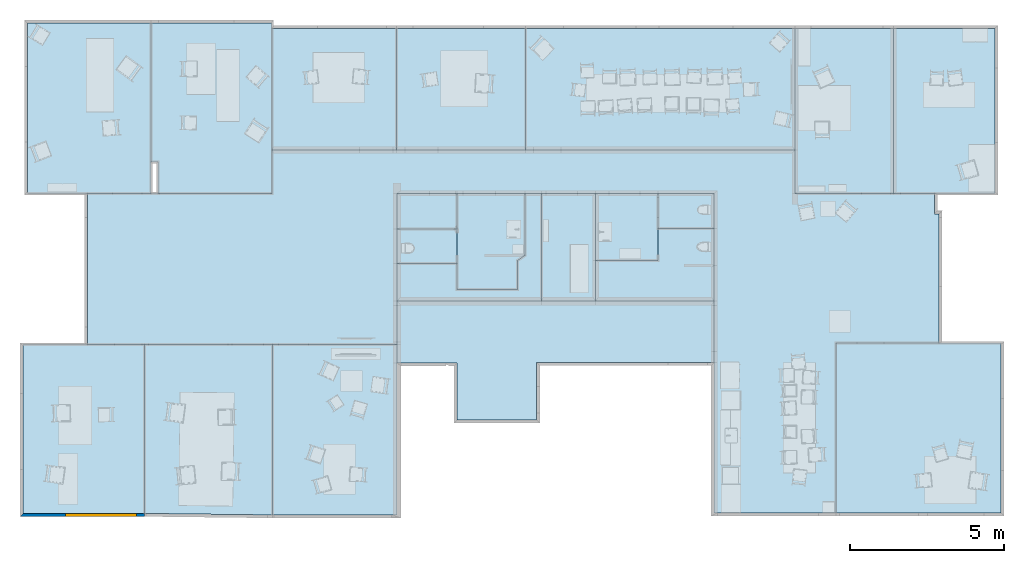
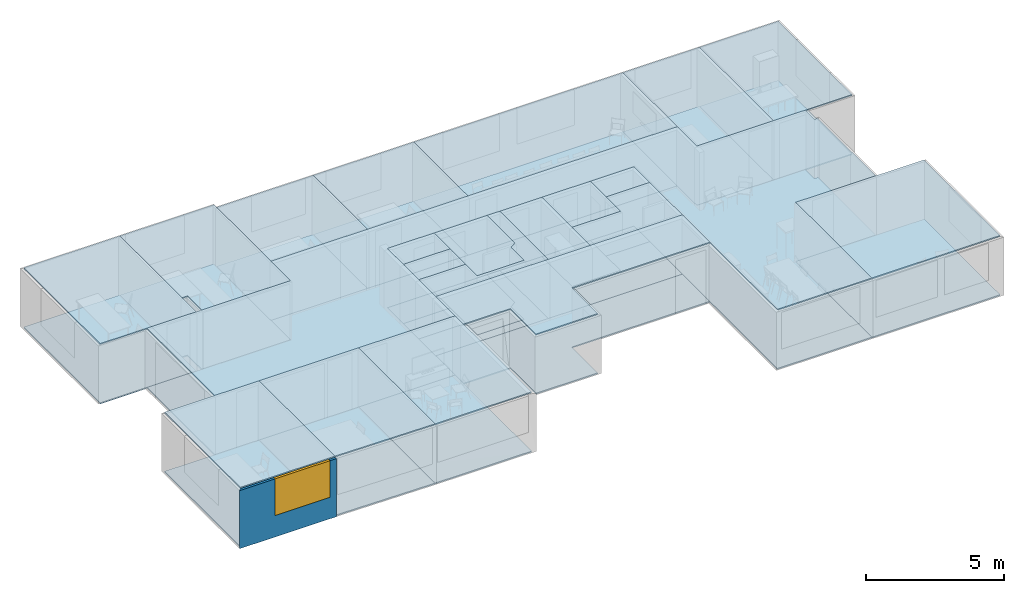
# One storey, part 1 of 26: 42 slabs, 1 wall, 1 window, 1 opening.
"""IFC2X3 building model written with IfcOpenShell, lengths in metres."""

from ifc_helpers import new_model, si_unit, direction, frame, origin_with_axes, place, context, subcontext, project, spatial, polyline, outline, extrude, type_object, element, fill, save


model = new_model("IFC2X3")

# Units and contexts
model_context = context("Model", 3, precision=1e-05, world=origin_with_axes(), true_north=direction((0.996, -0.093, 0.0)))
body_context = subcontext(model_context, "Body", "Model", "MODEL_VIEW")
ifc_project = project(units=[si_unit("AREAUNIT", "SQUARE_METRE"), si_unit("LENGTHUNIT", "METRE")], contexts=[model_context])

# Site, building, storey
site_placement = place(None, origin_with_axes())
site = spatial("IfcSite", under=ifc_project, at=site_placement, Name="Site", CompositionType="ELEMENT")
building_placement = place(site_placement, origin_with_axes())
building = spatial("IfcBuilding", under=site, at=building_placement, Name="Building", CompositionType="ELEMENT")
storey_placement = place(building_placement, frame((0.0, 0.0, 0.0500001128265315), z_axis=(0.0, 0.0, 1.0), x_axis=(1.0, 0.0, 0.0)))
storey = spatial("IfcBuildingStorey", under=building, at=storey_placement, Name="Story 0", CompositionType="ELEMENT", Elevation=0.0499999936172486)

# Slabs
slab_type_1 = type_object("IfcSlabType", PredefinedType="FLOOR")
slab_1_placement = place(storey_placement, frame((6.01094218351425, 11.0851799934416, 0.0), z_axis=(0.0, 0.0, 1.0), x_axis=(1.0, 0.0, 0.0)))
element("IfcSlab", 1, at=slab_1_placement, inside=storey, type_object=slab_type_1, Name="Floor", ObjectType="Floor:Floor-Grnd-Susp_65Scr-80Ins-100Blk-75PC", PredefinedType="FLOOR", context=body_context, shape_type="SweptSolid", body=[
    extrude(outline(polyline([(0.0, 0.0), (1.35120934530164e-06, -3.94189997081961), (4.04160132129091, -3.94189858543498), (4.04159997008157, 1.38538463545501e-06), (3.97889997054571, 1.36389225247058e-06), (0.0, 0.0)])), origin_with_axes(), (0.0, 0.0, -1.0), 0.05),
])
slab_type_2 = type_object("IfcSlabType", PredefinedType="FLOOR")
slab_2_placement = place(storey_placement, frame((16.5367737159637, 2.22077950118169, 0.0), z_axis=(0.0, 0.0, 1.0), x_axis=(1.0, 0.0, 0.0)))
element("IfcSlab", 2, at=slab_2_placement, inside=storey, type_object=slab_type_2, Name="Floor", ObjectType="Floor:Floor-Grnd-Susp_65Scr-80Ins-100Blk-75PC", PredefinedType="FLOOR", context=body_context, shape_type="SweptSolid", body=[
    extrude(outline(polyline([(0.0, 0.0), (-6.91700037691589e-07, 1.32092116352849), (2.02841165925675, 1.32092205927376), (2.02841071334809, 2.36955394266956), (3.8562978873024, 2.3695550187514), (3.85629842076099, 1.15562226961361), (3.85629870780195, 6.26529670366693e-07), (0.0, 0.0)])), origin_with_axes(), (0.0, 0.0, -1.0), 0.05),
])
slab_type_3 = type_object("IfcSlabType", PredefinedType="FLOOR")
slab_3_placement = place(storey_placement, frame((1.85908719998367, -4.68587847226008, 0.0), z_axis=(0.0, 0.0, 1.0), x_axis=(1.0, 0.0, 0.0)))
element("IfcSlab", 3, at=slab_3_placement, inside=storey, type_object=slab_type_3, Name="Floor", ObjectType="Floor:Floor-Grnd-Susp_65Scr-80Ins-100Blk-75PC", PredefinedType="FLOOR", context=body_context, shape_type="SweptSolid", body=[
    extrude(outline(polyline([(0.0, 0.0), (-5.78252630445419e-07, 5.50147174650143), (4.16546627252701, 5.5014719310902), (4.16546702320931, -0.0495669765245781), (0.0, 0.0)])), origin_with_axes(), (0.0, 0.0, -1.0), 0.05),
])
slab_type_4 = type_object("IfcSlabType", PredefinedType="FLOOR")
slab_4_placement = place(storey_placement, frame((10.0691793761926, 5.72888431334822, 0.0), z_axis=(0.0, 0.0, 1.0), x_axis=(1.0, 0.0, 0.0)))
element("IfcSlab", 4, at=slab_4_placement, inside=storey, type_object=slab_type_4, Name="Floor", ObjectType="Floor:Floor-Grnd-Susp_65Scr-80Ins-100Blk-75PC", PredefinedType="FLOOR", context=body_context, shape_type="SweptSolid", body=[
    extrude(outline(polyline([(0.0, 0.0), (1.16174970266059e-06, -1.15640352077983), (1.42666026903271e-06, -2.27992760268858), (1.7162467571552e-06, -3.50810586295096), (2.04756864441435e-06, -4.91328998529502), (-4.04462590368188, -4.91329085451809), (-8.2100927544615, -4.91329174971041), (-10.0644669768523, -4.91329214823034), (-10.0644674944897, -1.49524647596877e-06), (-8.00516032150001, -9.19671684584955e-07), (-7.77246198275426, -8.68281123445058e-07), (-4.05828463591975, -4.80188857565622e-08), (-4.05828480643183, 1.4144241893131), (-0.0166216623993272, 1.41442574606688), (4.18886750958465, 1.41442736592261), (12.9510258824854, 1.41443074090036), (12.9510268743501, 3.87127766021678e-06), (16.1598814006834, 4.32439489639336e-06), (17.4891174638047, 4.51209419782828e-06), (17.4891194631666, -0.668520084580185), (17.6346837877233, -0.668521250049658), (17.6346847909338, -4.87122265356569), (14.2777426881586, -4.87122354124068), (14.2777442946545, -10.3953970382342), (10.3238941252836, -10.3953982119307), (10.3238935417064, -5.49747577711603), (10.3238930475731, -3.50810418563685), (10.3238927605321, -2.35248254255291), (10.3238924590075, -1.13854979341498), (10.3238921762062, 2.88185688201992e-06), (8.49600574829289, 2.33355119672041e-06), (6.46759250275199, 1.77641808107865e-06), (4.70630800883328, 1.29265575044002e-06), (4.16981985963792, 1.14530149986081e-06), (1.95834369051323, 5.3788749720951e-07), (0.0, 0.0)])), origin_with_axes(), (0.0, 0.0, -1.0), 0.05),
])
slab_type_5 = type_object("IfcSlabType", PredefinedType="FLOOR")
slab_5_placement = place(storey_placement, frame((14.7754880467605, 2.22077921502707, 0.0), z_axis=(0.0, 0.0, 1.0), x_axis=(1.0, 0.0, 0.0)))
element("IfcSlab", 5, at=slab_5_placement, inside=storey, type_object=slab_type_5, Name="Floor", ObjectType="Floor:Floor-Grnd-Susp_65Scr-80Ins-100Blk-75PC", PredefinedType="FLOOR", context=body_context, shape_type="SweptSolid", body=[
    extrude(outline(polyline([(0.0, 0.0), (-6.61734810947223e-07, 3.50810715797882), (1.76128383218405, 3.50810687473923), (1.76128497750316, 1.32092144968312), (1.76128566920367, -5.95129599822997e-07), (0.0, 0.0)])), origin_with_axes(), (0.0, 0.0, -1.0), 0.05),
])
slab_type_6 = type_object("IfcSlabType", PredefinedType="FLOOR")
slab_6_placement = place(storey_placement, frame((10.0691808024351, 3.44895671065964, 0.0), z_axis=(0.0, 0.0, 1.0), x_axis=(1.0, 0.0, 0.0)))
element("IfcSlab", 6, at=slab_6_placement, inside=storey, type_object=slab_type_6, Name="Floor", ObjectType="Floor:Floor-Grnd-Susp_65Scr-80Ins-100Blk-75PC", PredefinedType="FLOOR", context=body_context, shape_type="SweptSolid", body=[
    extrude(outline(polyline([(0.0, 0.0), (-2.64492820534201e-07, 1.12352408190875), (1.95834300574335, 1.12352298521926), (1.95834218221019, 0.996839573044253), (1.9583421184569, 5.66208797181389e-07), (0.0, 0.0)])), origin_with_axes(), (0.0, 0.0, -1.0), 0.05),
])
slab_type_7 = type_object("IfcSlabType", PredefinedType="FLOOR")
slab_7_placement = place(storey_placement, frame((18.5651854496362, 4.59033346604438, 0.0), z_axis=(0.0, 0.0, 1.0), x_axis=(1.0, 0.0, 0.0)))
element("IfcSlab", 7, at=slab_7_placement, inside=storey, type_object=slab_type_7, Name="Floor", ObjectType="Floor:Floor-Grnd-Susp_65Scr-80Ins-100Blk-75PC", PredefinedType="FLOOR", context=body_context, shape_type="SweptSolid", body=[
    extrude(outline(polyline([(0.0, 0.0), (-6.44977493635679e-07, -1.04863051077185), (-2.02841097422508, -1.04863280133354), (-2.02841357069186, 1.13855297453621), (-3.25150779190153e-07, 1.13855318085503), (0.0, 0.0)])), origin_with_axes(), (0.0, 0.0, -1.0), 0.05),
])
slab_type_8 = type_object("IfcSlabType", PredefinedType="FLOOR")
slab_8_placement = place(storey_placement, frame((24.3469220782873, -4.66651286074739, 0.0), z_axis=(0.0, 0.0, 1.0), x_axis=(1.0, 0.0, 0.0)))
element("IfcSlab", 8, at=slab_8_placement, inside=storey, type_object=slab_type_8, Name="Floor", ObjectType="Floor:Floor-Grnd-Susp_65Scr-80Ins-100Blk-75PC", PredefinedType="FLOOR", context=body_context, shape_type="SweptSolid", body=[
    extrude(outline(polyline([(0.0, 0.0), (1.32077918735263e-06, 5.52417339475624), (3.3569420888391, 5.52417447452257), (5.37412561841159, 5.52417498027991), (5.37412732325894, 1.73379316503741e-06), (0.0, 0.0)])), origin_with_axes(), (0.0, 0.0, -1.0), 0.05),
])
slab_type_9 = type_object("IfcSlabType", PredefinedType="FLOOR")
slab_9_placement = place(storey_placement, frame((12.0275230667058, 5.72888485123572, 0.0), z_axis=(0.0, 0.0, 1.0), x_axis=(1.0, 0.0, 0.0)))
element("IfcSlab", 9, at=slab_9_placement, inside=storey, type_object=slab_type_9, Name="Floor", ObjectType="Floor:Floor-Grnd-Susp_65Scr-80Ins-100Blk-75PC", PredefinedType="FLOOR", context=body_context, shape_type="SweptSolid", body=[
    extrude(outline(polyline([(0.0, 0.0), (-7.39584145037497e-08, -1.15640515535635), (-1.95834145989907, -1.15640405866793), (-1.95834280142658, -5.37887253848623e-07), (0.0, 0.0)])), origin_with_axes(), (0.0, 0.0, -1.0), 0.05),
])
slab_type_10 = type_object("IfcSlabType", PredefinedType="FLOOR")
slab_10_placement = place(storey_placement, frame((6.01089456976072, 7.14330850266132, 0.0), z_axis=(0.0, 0.0, 1.0), x_axis=(1.0, 0.0, 0.0)))
element("IfcSlab", 10, at=slab_10_placement, inside=storey, type_object=slab_type_10, Name="Floor", ObjectType="Floor:Floor-Grnd-Susp_65Scr-80Ins-100Blk-75PC", PredefinedType="FLOOR", context=body_context, shape_type="SweptSolid", body=[
    extrude(outline(polyline([(0.0, 0.0), (1.91276572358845e-07, -1.41442484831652), (-3.71417717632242, -1.41442505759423), (-3.71417728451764, -0.38746187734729), (-3.94687553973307, -0.387461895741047), (-3.94687604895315, 4.12646442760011), (-7.28675563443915e-07, 4.12646619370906), (-5.33075076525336e-07, 3.94190793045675), (0.0, 0.0)])), origin_with_axes(), (0.0, 0.0, -1.0), 0.05),
])
slab_type_11 = type_object("IfcSlabType", PredefinedType="FLOOR")
slab_11_placement = place(storey_placement, frame((12.0275230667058, 5.72888523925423, 0.0), z_axis=(0.0, 0.0, 1.0), x_axis=(1.0, 0.0, 0.0)))
element("IfcSlab", 11, at=slab_11_placement, inside=storey, type_object=slab_type_11, Name="Floor", ObjectType="Floor:Floor-Grnd-Susp_65Scr-80Ins-100Blk-75PC", PredefinedType="FLOOR", context=body_context, shape_type="SweptSolid", body=[
    extrude(outline(polyline([(0.0, 0.0), (2.21147616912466, 2.19395485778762e-07), (2.21147654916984, -2.01476334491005), (1.95910113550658, -2.18755352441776), (1.95910019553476, -3.12124838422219), (3.97650538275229e-07, -3.12124927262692), (3.39134585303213e-07, -2.27992764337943), (-8.20605414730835e-08, -1.28308895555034), (-7.39584429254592e-08, -1.15640554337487), (0.0, 0.0)])), origin_with_axes(), (0.0, 0.0, -1.0), 0.05),
])
slab_type_12 = type_object("IfcSlabType", PredefinedType="FLOOR")
slab_12_placement = place(storey_placement, frame((29.5232931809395, 11.0953677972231, 0.0), z_axis=(0.0, 0.0, 1.0), x_axis=(1.0, 0.0, 0.0)))
element("IfcSlab", 12, at=slab_12_placement, inside=storey, type_object=slab_type_12, Name="Floor", ObjectType="Floor:Floor-Grnd-Susp_65Scr-80Ins-100Blk-75PC", PredefinedType="FLOOR", context=body_context, shape_type="SweptSolid", body=[
    extrude(outline(polyline([(0.0, 0.0), (2.82823489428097e-06, -5.36647890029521), (-1.96499634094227, -5.36647897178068), (-3.29423240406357, -5.36647915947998), (-3.2942329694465, 2.0218647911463e-07), (0.0, 0.0)])), origin_with_axes(), (0.0, 0.0, -1.0), 0.05),
])
slab_type_13 = type_object("IfcSlabType", PredefinedType="FLOOR")
slab_13_placement = place(storey_placement, frame((-2.09511550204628, 0.815591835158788, 0.0), z_axis=(0.0, 0.0, 1.0), x_axis=(1.0, 0.0, 0.0)))
element("IfcSlab", 13, at=slab_13_placement, inside=storey, type_object=slab_type_13, Name="Floor", ObjectType="Floor:Floor-Grnd-Susp_65Scr-80Ins-100Blk-75PC", PredefinedType="FLOOR", context=body_context, shape_type="SweptSolid", body=[
    extrude(outline(polyline([(0.0, 0.0), (2.09982790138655, 3.2995908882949e-07), (3.95420212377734, 7.28479019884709e-07), (3.95420232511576, -5.50147008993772), (1.11260533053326e-06, -5.5014707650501), (0.0, 0.0)])), origin_with_axes(), (0.0, 0.0, -1.0), 0.05),
])
slab_type_14 = type_object("IfcSlabType", PredefinedType="FLOOR")
slab_14_placement = place(storey_placement, frame((23.0202060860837, 7.14331505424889, 0.0), z_axis=(0.0, 0.0, 1.0), x_axis=(1.0, 0.0, 0.0)))
element("IfcSlab", 14, at=slab_14_placement, inside=storey, type_object=slab_type_14, Name="Floor", ObjectType="Floor:Floor-Grnd-Susp_65Scr-80Ins-100Blk-75PC", PredefinedType="FLOOR", context=body_context, shape_type="SweptSolid", body=[
    extrude(outline(polyline([(0.0, 0.0), (-4.59514758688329e-07, 3.95205102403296), (3.20885412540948, 3.95205147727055), (3.20885469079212, -1.41442597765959), (7.28245669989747e-07, -1.41442686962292), (0.0, 0.0)])), origin_with_axes(), (0.0, 0.0, -1.0), 0.05),
])
slab_type_15 = type_object("IfcSlabType", PredefinedType="FLOOR")
slab_15_placement = place(storey_placement, frame((14.7754880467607, 2.2207781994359, 0.0), z_axis=(0.0, 0.0, 1.0), x_axis=(1.0, 0.0, 0.0)))
element("IfcSlab", 15, at=slab_15_placement, inside=storey, type_object=slab_type_15, Name="Floor", ObjectType="Floor:Floor-Grnd-Susp_65Scr-80Ins-100Blk-75PC", PredefinedType="FLOOR", context=body_context, shape_type="SweptSolid", body=[
    extrude(outline(polyline([(0.0, 0.0), (-4.70630849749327, 2.50961106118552e-07), (-4.70630724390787, 1.22817851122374), (-2.74796490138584, 1.22817894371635), (-2.74796454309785, 0.386858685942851), (-0.78886479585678, 0.386858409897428), (-0.788863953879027, 1.32055354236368), (-0.536487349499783, 1.4933437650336), (-0.536488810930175, 3.50810705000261), (-6.61734858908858e-07, 3.50810740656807), (0.0, 0.0)])), origin_with_axes(), (0.0, 0.0, -1.0), 0.05),
])
slab_type_16 = type_object("IfcSlabType", PredefinedType="FLOOR")
slab_16_placement = place(storey_placement, frame((2.06401895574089, 6.75584660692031, 0.0), z_axis=(0.0, 0.0, 1.0), x_axis=(1.0, 0.0, 0.0)))
element("IfcSlab", 16, at=slab_16_placement, inside=storey, type_object=slab_type_16, Name="Floor", ObjectType="Floor:Floor-Grnd-Susp_65Scr-80Ins-100Blk-75PC", PredefinedType="FLOOR", context=body_context, shape_type="SweptSolid", body=[
    extrude(outline(polyline([(0.0, 0.0), (9.89518080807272e-08, -1.02696473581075), (-2.05930707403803, -1.02696366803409), (-4.0181853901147, -1.02696410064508), (-4.01818635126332, 4.51392607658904), (-6.16582976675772e-07, 4.51392713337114), (0.0, 0.0)])), origin_with_axes(), (0.0, 0.0, -1.0), 0.05),
])
slab_type_17 = type_object("IfcSlabType", PredefinedType="FLOOR")
slab_17_placement = place(storey_placement, frame((14.2580468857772, 7.14331167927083, 0.0), z_axis=(0.0, 0.0, 1.0), x_axis=(1.0, 0.0, 0.0)))
element("IfcSlab", 17, at=slab_17_placement, inside=storey, type_object=slab_type_17, Name="Floor", ObjectType="Floor:Floor-Grnd-Susp_65Scr-80Ins-100Blk-75PC", PredefinedType="FLOOR", context=body_context, shape_type="SweptSolid", body=[
    extrude(outline(polyline([(0.0, 0.0), (-8.47147497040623e-07, 3.94190691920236), (8.76215812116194, 3.95205543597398), (8.76215920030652, 3.37497806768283e-06), (0.0, 0.0)])), origin_with_axes(), (0.0, 0.0, -1.0), 0.05),
])
slab_type_18 = type_object("IfcSlabType", PredefinedType="FLOOR")
slab_18_placement = place(storey_placement, frame((18.5651851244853, 5.72888719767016, 0.0), z_axis=(0.0, 0.0, 1.0), x_axis=(1.0, 0.0, 0.0)))
element("IfcSlab", 18, at=slab_18_placement, inside=storey, type_object=slab_type_18, Name="Floor", ObjectType="Floor:Floor-Grnd-Susp_65Scr-80Ins-100Blk-75PC", PredefinedType="FLOOR", context=body_context, shape_type="SweptSolid", body=[
    extrude(outline(polyline([(0.0, 0.0), (1.82788549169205, -4.87154796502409e-08), (1.82788671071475, -1.13855267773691), (-2.73065879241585e-07, -1.13855384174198), (0.0, 0.0)])), origin_with_axes(), (0.0, 0.0, -1.0), 0.05),
])
slab_type_19 = type_object("IfcSlabType", PredefinedType="FLOOR")
slab_19_placement = place(storey_placement, frame((10.0525577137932, 7.1433100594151, 0.0), z_axis=(0.0, 0.0, 1.0), x_axis=(1.0, 0.0, 0.0)))
element("IfcSlab", 19, at=slab_19_placement, inside=storey, type_object=slab_type_19, Name="Floor", ObjectType="Floor:Floor-Grnd-Susp_65Scr-80Ins-100Blk-75PC", PredefinedType="FLOOR", context=body_context, shape_type="SweptSolid", body=[
    extrude(outline(polyline([(0.0, 0.0), (-8.47147642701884e-07, 3.94190761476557), (4.20548840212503, 3.94190913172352), (4.20548917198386, 2.15053824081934e-06), (0.0, 0.0)])), origin_with_axes(), (0.0, 0.0, -1.0), 0.05),
])
slab_type_20 = type_object("IfcSlabType", PredefinedType="FLOOR")
slab_20_placement = place(storey_placement, frame((12.0283743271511, 0.210006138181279, 0.0), z_axis=(0.0, 0.0, 1.0), x_axis=(1.0, 0.0, 0.0)))
element("IfcSlab", 20, at=slab_20_placement, inside=storey, type_object=slab_type_20, Name="Floor", ObjectType="Floor:Floor-Grnd-Susp_65Scr-80Ins-100Blk-75PC", PredefinedType="FLOOR", context=body_context, shape_type="SweptSolid", body=[
    extrude(outline(polyline([(0.0, 0.0), (-1.95919339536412, -3.10732689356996e-07), (-1.95919290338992, 0.605588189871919), (-1.95919323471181, 2.01077231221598), (2.74711371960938, 2.01077307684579), (4.50839938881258, 2.01077336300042), (8.36469680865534, 2.01077398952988), (8.36469859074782, 0.0214023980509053), (2.5897894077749, 0.0214012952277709), (2.58978940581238, -1.85760206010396), (5.34894102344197e-08, -1.85760300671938), (0.0, 0.0)])), origin_with_axes(), (0.0, 0.0, -1.0), 0.05),
])
slab_type_21 = type_object("IfcSlabType", PredefinedType="FLOOR")
slab_21_placement = place(storey_placement, frame((6.0245547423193, -4.73544571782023, 0.0), z_axis=(0.0, 0.0, 1.0), x_axis=(1.0, 0.0, 0.0)))
element("IfcSlab", 21, at=slab_21_placement, inside=storey, type_object=slab_type_21, Name="Floor", ObjectType="Floor:Floor-Grnd-Susp_65Scr-80Ins-100Blk-75PC", PredefinedType="FLOOR", context=body_context, shape_type="SweptSolid", body=[
    extrude(outline(polyline([(0.0, 0.0), (-1.26980866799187e-06, 5.55103949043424), (4.04462651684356, 5.55104004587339), (4.04462682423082, 4.94545154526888), (4.04462799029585, 8.39267172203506e-07), (0.0, 0.0)])), origin_with_axes(), (0.0, 0.0, -1.0), 0.05),
])
slab_type_22 = type_object("IfcSlabType", PredefinedType="ROOF")
slab_22_placement = place(storey_placement, frame((6.01094218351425, 11.0851799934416, 2.5729394), z_axis=(0.0, 0.0, 1.0), x_axis=(1.0, 0.0, 0.0)))
element("IfcSlab", 22, at=slab_22_placement, inside=storey, type_object=slab_type_22, Name="Ceiling", PredefinedType="ROOF", context=body_context, shape_type="SweptSolid", body=[
    extrude(outline(polyline([(0.0, 0.0), (1.35120934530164e-06, -3.94189997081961), (4.04160132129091, -3.94189858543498), (4.04159997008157, 1.38538463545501e-06), (3.97889997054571, 1.36389225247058e-06), (0.0, 0.0)])), origin_with_axes(), (0.0, 0.0, 1.0), 0.05),
])
slab_type_23 = type_object("IfcSlabType", PredefinedType="ROOF")
slab_23_placement = place(storey_placement, frame((16.5367737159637, 2.22077950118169, 2.57293928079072), z_axis=(0.0, 0.0, 1.0), x_axis=(1.0, 0.0, 0.0)))
element("IfcSlab", 23, at=slab_23_placement, inside=storey, type_object=slab_type_23, Name="Ceiling", PredefinedType="ROOF", context=body_context, shape_type="SweptSolid", body=[
    extrude(outline(polyline([(0.0, 0.0), (-6.91700037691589e-07, 1.32092116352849), (2.02841165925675, 1.32092205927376), (2.02841071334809, 2.36955394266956), (3.8562978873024, 2.3695550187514), (3.85629842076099, 1.15562226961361), (3.85629870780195, 6.26529670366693e-07), (0.0, 0.0)])), origin_with_axes(), (0.0, 0.0, 1.0), 0.05),
])
slab_type_24 = type_object("IfcSlabType", PredefinedType="ROOF")
slab_24_placement = place(storey_placement, frame((1.85908719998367, -4.68587847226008, 2.57293928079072), z_axis=(0.0, 0.0, 1.0), x_axis=(1.0, 0.0, 0.0)))
element("IfcSlab", 24, at=slab_24_placement, inside=storey, type_object=slab_type_24, Name="Ceiling", PredefinedType="ROOF", context=body_context, shape_type="SweptSolid", body=[
    extrude(outline(polyline([(0.0, 0.0), (-5.78252630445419e-07, 5.50147174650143), (4.16546627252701, 5.5014719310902), (4.16546702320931, -0.0495669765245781), (0.0, 0.0)])), origin_with_axes(), (0.0, 0.0, 1.0), 0.05),
])
slab_type_25 = type_object("IfcSlabType", PredefinedType="ROOF")
slab_25_placement = place(storey_placement, frame((10.0691793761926, 5.72888431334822, 2.57293928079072), z_axis=(0.0, 0.0, 1.0), x_axis=(1.0, 0.0, 0.0)))
element("IfcSlab", 25, at=slab_25_placement, inside=storey, type_object=slab_type_25, Name="Ceiling", PredefinedType="ROOF", context=body_context, shape_type="SweptSolid", body=[
    extrude(outline(polyline([(0.0, 0.0), (1.16174970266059e-06, -1.15640352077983), (1.42666026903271e-06, -2.27992760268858), (1.7162467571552e-06, -3.50810586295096), (2.04756864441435e-06, -4.91328998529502), (-4.04462590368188, -4.91329085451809), (-8.2100927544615, -4.91329174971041), (-10.0644669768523, -4.91329214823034), (-10.0644674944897, -1.49524647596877e-06), (-8.00516032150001, -9.19671684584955e-07), (-7.77246198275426, -8.68281123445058e-07), (-4.05828463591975, -4.80188857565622e-08), (-4.05828480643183, 1.4144241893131), (-0.0166216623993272, 1.41442574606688), (4.18886750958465, 1.41442736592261), (12.9510258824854, 1.41443074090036), (12.9510268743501, 3.87127766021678e-06), (16.1598814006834, 4.32439489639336e-06), (17.4891174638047, 4.51209419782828e-06), (17.4891194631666, -0.668520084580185), (17.6346837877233, -0.668521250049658), (17.6346847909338, -4.87122265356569), (14.2777426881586, -4.87122354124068), (14.2777442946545, -10.3953970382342), (10.3238941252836, -10.3953982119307), (10.3238935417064, -5.49747577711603), (10.3238930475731, -3.50810418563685), (10.3238927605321, -2.35248254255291), (10.3238924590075, -1.13854979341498), (10.3238921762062, 2.88185688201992e-06), (8.49600574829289, 2.33355119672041e-06), (6.46759250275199, 1.77641808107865e-06), (4.70630800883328, 1.29265575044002e-06), (4.16981985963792, 1.14530149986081e-06), (1.95834369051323, 5.3788749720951e-07), (0.0, 0.0)])), origin_with_axes(), (0.0, 0.0, 1.0), 0.05),
])
slab_type_26 = type_object("IfcSlabType", PredefinedType="ROOF")
slab_26_placement = place(storey_placement, frame((14.7754880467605, 2.22077921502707, 2.57293928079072), z_axis=(0.0, 0.0, 1.0), x_axis=(1.0, 0.0, 0.0)))
element("IfcSlab", 26, at=slab_26_placement, inside=storey, type_object=slab_type_26, Name="Ceiling", PredefinedType="ROOF", context=body_context, shape_type="SweptSolid", body=[
    extrude(outline(polyline([(0.0, 0.0), (-6.61734810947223e-07, 3.50810715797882), (1.76128383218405, 3.50810687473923), (1.76128497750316, 1.32092144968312), (1.76128566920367, -5.95129599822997e-07), (0.0, 0.0)])), origin_with_axes(), (0.0, 0.0, 1.0), 0.05),
])
slab_type_27 = type_object("IfcSlabType", PredefinedType="ROOF")
slab_27_placement = place(storey_placement, frame((10.0691808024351, 3.44895671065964, 2.57293928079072), z_axis=(0.0, 0.0, 1.0), x_axis=(1.0, 0.0, 0.0)))
element("IfcSlab", 27, at=slab_27_placement, inside=storey, type_object=slab_type_27, Name="Ceiling", PredefinedType="ROOF", context=body_context, shape_type="SweptSolid", body=[
    extrude(outline(polyline([(0.0, 0.0), (-2.64492820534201e-07, 1.12352408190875), (1.95834300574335, 1.12352298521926), (1.95834218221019, 0.996839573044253), (1.9583421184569, 5.66208797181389e-07), (0.0, 0.0)])), origin_with_axes(), (0.0, 0.0, 1.0), 0.05),
])
slab_type_28 = type_object("IfcSlabType", PredefinedType="ROOF")
slab_28_placement = place(storey_placement, frame((18.5651854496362, 4.59033346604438, 2.57293928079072), z_axis=(0.0, 0.0, 1.0), x_axis=(1.0, 0.0, 0.0)))
element("IfcSlab", 28, at=slab_28_placement, inside=storey, type_object=slab_type_28, Name="Ceiling", PredefinedType="ROOF", context=body_context, shape_type="SweptSolid", body=[
    extrude(outline(polyline([(0.0, 0.0), (-6.44977493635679e-07, -1.04863051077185), (-2.02841097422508, -1.04863280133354), (-2.02841357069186, 1.13855297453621), (-3.25150779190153e-07, 1.13855318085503), (0.0, 0.0)])), origin_with_axes(), (0.0, 0.0, 1.0), 0.05),
])
slab_type_29 = type_object("IfcSlabType", PredefinedType="ROOF")
slab_29_placement = place(storey_placement, frame((24.3469220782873, -4.66651286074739, 2.57293928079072), z_axis=(0.0, 0.0, 1.0), x_axis=(1.0, 0.0, 0.0)))
element("IfcSlab", 29, at=slab_29_placement, inside=storey, type_object=slab_type_29, Name="Ceiling", PredefinedType="ROOF", context=body_context, shape_type="SweptSolid", body=[
    extrude(outline(polyline([(0.0, 0.0), (1.32077918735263e-06, 5.52417339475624), (3.3569420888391, 5.52417447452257), (5.37412561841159, 5.52417498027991), (5.37412732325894, 1.73379316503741e-06), (0.0, 0.0)])), origin_with_axes(), (0.0, 0.0, 1.0), 0.05),
])
slab_type_30 = type_object("IfcSlabType", PredefinedType="ROOF")
slab_30_placement = place(storey_placement, frame((12.0275230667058, 5.72888485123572, 2.57293928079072), z_axis=(0.0, 0.0, 1.0), x_axis=(1.0, 0.0, 0.0)))
element("IfcSlab", 30, at=slab_30_placement, inside=storey, type_object=slab_type_30, Name="Ceiling", PredefinedType="ROOF", context=body_context, shape_type="SweptSolid", body=[
    extrude(outline(polyline([(0.0, 0.0), (-7.39584145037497e-08, -1.15640515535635), (-1.95834145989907, -1.15640405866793), (-1.95834280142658, -5.37887253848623e-07), (0.0, 0.0)])), origin_with_axes(), (0.0, 0.0, 1.0), 0.05),
])
slab_type_31 = type_object("IfcSlabType", PredefinedType="ROOF")
slab_31_placement = place(storey_placement, frame((6.01089456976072, 7.14330850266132, 2.57293928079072), z_axis=(0.0, 0.0, 1.0), x_axis=(1.0, 0.0, 0.0)))
element("IfcSlab", 31, at=slab_31_placement, inside=storey, type_object=slab_type_31, Name="Ceiling", PredefinedType="ROOF", context=body_context, shape_type="SweptSolid", body=[
    extrude(outline(polyline([(0.0, 0.0), (1.91276572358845e-07, -1.41442484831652), (-3.71417717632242, -1.41442505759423), (-3.71417728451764, -0.38746187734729), (-3.94687553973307, -0.387461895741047), (-3.94687604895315, 4.12646442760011), (-7.28675563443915e-07, 4.12646619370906), (-5.33075076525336e-07, 3.94190793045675), (0.0, 0.0)])), origin_with_axes(), (0.0, 0.0, 1.0), 0.05),
])
slab_type_32 = type_object("IfcSlabType", PredefinedType="ROOF")
slab_32_placement = place(storey_placement, frame((12.0275230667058, 5.72888523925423, 2.57293928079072), z_axis=(0.0, 0.0, 1.0), x_axis=(1.0, 0.0, 0.0)))
element("IfcSlab", 32, at=slab_32_placement, inside=storey, type_object=slab_type_32, Name="Ceiling", PredefinedType="ROOF", context=body_context, shape_type="SweptSolid", body=[
    extrude(outline(polyline([(0.0, 0.0), (2.21147616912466, 2.19395485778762e-07), (2.21147654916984, -2.01476334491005), (1.95910113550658, -2.18755352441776), (1.95910019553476, -3.12124838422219), (3.97650538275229e-07, -3.12124927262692), (3.39134585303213e-07, -2.27992764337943), (-8.20605414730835e-08, -1.28308895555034), (-7.39584429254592e-08, -1.15640554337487), (0.0, 0.0)])), origin_with_axes(), (0.0, 0.0, 1.0), 0.05),
])
slab_type_33 = type_object("IfcSlabType", PredefinedType="ROOF")
slab_33_placement = place(storey_placement, frame((29.5232931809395, 11.0953677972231, 2.57293928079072), z_axis=(0.0, 0.0, 1.0), x_axis=(1.0, 0.0, 0.0)))
element("IfcSlab", 33, at=slab_33_placement, inside=storey, type_object=slab_type_33, Name="Ceiling", PredefinedType="ROOF", context=body_context, shape_type="SweptSolid", body=[
    extrude(outline(polyline([(0.0, 0.0), (2.82823489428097e-06, -5.36647890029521), (-1.96499634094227, -5.36647897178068), (-3.29423240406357, -5.36647915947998), (-3.2942329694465, 2.0218647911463e-07), (0.0, 0.0)])), origin_with_axes(), (0.0, 0.0, 1.0), 0.05),
])
slab_type_34 = type_object("IfcSlabType", PredefinedType="ROOF")
slab_34_placement = place(storey_placement, frame((-2.09511550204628, 0.815591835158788, 2.57293928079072), z_axis=(0.0, 0.0, 1.0), x_axis=(1.0, 0.0, 0.0)))
element("IfcSlab", 34, at=slab_34_placement, inside=storey, type_object=slab_type_34, Name="Ceiling", PredefinedType="ROOF", context=body_context, shape_type="SweptSolid", body=[
    extrude(outline(polyline([(0.0, 0.0), (2.09982790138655, 3.2995908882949e-07), (3.95420212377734, 7.28479019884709e-07), (3.95420232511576, -5.50147008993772), (1.11260533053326e-06, -5.5014707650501), (0.0, 0.0)])), origin_with_axes(), (0.0, 0.0, 1.0), 0.05),
])
slab_type_35 = type_object("IfcSlabType", PredefinedType="ROOF")
slab_35_placement = place(storey_placement, frame((23.0202060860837, 7.14331505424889, 2.57293928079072), z_axis=(0.0, 0.0, 1.0), x_axis=(1.0, 0.0, 0.0)))
element("IfcSlab", 35, at=slab_35_placement, inside=storey, type_object=slab_type_35, Name="Ceiling", PredefinedType="ROOF", context=body_context, shape_type="SweptSolid", body=[
    extrude(outline(polyline([(0.0, 0.0), (-4.59514758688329e-07, 3.95205102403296), (3.20885412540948, 3.95205147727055), (3.20885469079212, -1.41442597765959), (7.28245669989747e-07, -1.41442686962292), (0.0, 0.0)])), origin_with_axes(), (0.0, 0.0, 1.0), 0.05),
])
slab_type_36 = type_object("IfcSlabType", PredefinedType="ROOF")
slab_36_placement = place(storey_placement, frame((14.7754880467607, 2.2207781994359, 2.57293928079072), z_axis=(0.0, 0.0, 1.0), x_axis=(1.0, 0.0, 0.0)))
element("IfcSlab", 36, at=slab_36_placement, inside=storey, type_object=slab_type_36, Name="Ceiling", PredefinedType="ROOF", context=body_context, shape_type="SweptSolid", body=[
    extrude(outline(polyline([(0.0, 0.0), (-4.70630849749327, 2.50961106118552e-07), (-4.70630724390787, 1.22817851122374), (-2.74796490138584, 1.22817894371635), (-2.74796454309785, 0.386858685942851), (-0.78886479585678, 0.386858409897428), (-0.788863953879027, 1.32055354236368), (-0.536487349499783, 1.4933437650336), (-0.536488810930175, 3.50810705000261), (-6.61734858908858e-07, 3.50810740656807), (0.0, 0.0)])), origin_with_axes(), (0.0, 0.0, 1.0), 0.05),
])
slab_type_37 = type_object("IfcSlabType", PredefinedType="ROOF")
slab_37_placement = place(storey_placement, frame((2.06401895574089, 6.75584660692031, 2.57293928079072), z_axis=(0.0, 0.0, 1.0), x_axis=(1.0, 0.0, 0.0)))
element("IfcSlab", 37, at=slab_37_placement, inside=storey, type_object=slab_type_37, Name="Ceiling", PredefinedType="ROOF", context=body_context, shape_type="SweptSolid", body=[
    extrude(outline(polyline([(0.0, 0.0), (9.89518080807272e-08, -1.02696473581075), (-2.05930707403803, -1.02696366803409), (-4.0181853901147, -1.02696410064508), (-4.01818635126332, 4.51392607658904), (-6.16582976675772e-07, 4.51392713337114), (0.0, 0.0)])), origin_with_axes(), (0.0, 0.0, 1.0), 0.05),
])
slab_type_38 = type_object("IfcSlabType", PredefinedType="ROOF")
slab_38_placement = place(storey_placement, frame((14.2580468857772, 7.14331167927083, 2.57293928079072), z_axis=(0.0, 0.0, 1.0), x_axis=(1.0, 0.0, 0.0)))
element("IfcSlab", 38, at=slab_38_placement, inside=storey, type_object=slab_type_38, Name="Ceiling", PredefinedType="ROOF", context=body_context, shape_type="SweptSolid", body=[
    extrude(outline(polyline([(0.0, 0.0), (-8.47147497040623e-07, 3.94190691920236), (8.76215812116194, 3.95205543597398), (8.76215920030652, 3.37497806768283e-06), (0.0, 0.0)])), origin_with_axes(), (0.0, 0.0, 1.0), 0.05),
])
slab_type_39 = type_object("IfcSlabType", PredefinedType="ROOF")
slab_39_placement = place(storey_placement, frame((18.5651851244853, 5.72888719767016, 2.57293928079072), z_axis=(0.0, 0.0, 1.0), x_axis=(1.0, 0.0, 0.0)))
element("IfcSlab", 39, at=slab_39_placement, inside=storey, type_object=slab_type_39, Name="Ceiling", PredefinedType="ROOF", context=body_context, shape_type="SweptSolid", body=[
    extrude(outline(polyline([(0.0, 0.0), (1.82788549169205, -4.87154796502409e-08), (1.82788671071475, -1.13855267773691), (-2.73065879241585e-07, -1.13855384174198), (0.0, 0.0)])), origin_with_axes(), (0.0, 0.0, 1.0), 0.05),
])
slab_type_40 = type_object("IfcSlabType", PredefinedType="ROOF")
slab_40_placement = place(storey_placement, frame((10.0525577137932, 7.1433100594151, 2.57293928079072), z_axis=(0.0, 0.0, 1.0), x_axis=(1.0, 0.0, 0.0)))
element("IfcSlab", 40, at=slab_40_placement, inside=storey, type_object=slab_type_40, Name="Ceiling", PredefinedType="ROOF", context=body_context, shape_type="SweptSolid", body=[
    extrude(outline(polyline([(0.0, 0.0), (-8.47147642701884e-07, 3.94190761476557), (4.20548840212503, 3.94190913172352), (4.20548917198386, 2.15053824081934e-06), (0.0, 0.0)])), origin_with_axes(), (0.0, 0.0, 1.0), 0.05),
])
slab_type_41 = type_object("IfcSlabType", PredefinedType="ROOF")
slab_41_placement = place(storey_placement, frame((12.0283743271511, 0.210006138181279, 2.57293928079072), z_axis=(0.0, 0.0, 1.0), x_axis=(1.0, 0.0, 0.0)))
element("IfcSlab", 41, at=slab_41_placement, inside=storey, type_object=slab_type_41, Name="Ceiling", PredefinedType="ROOF", context=body_context, shape_type="SweptSolid", body=[
    extrude(outline(polyline([(0.0, 0.0), (-1.95919339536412, -3.10732689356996e-07), (-1.95919290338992, 0.605588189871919), (-1.95919323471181, 2.01077231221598), (2.74711371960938, 2.01077307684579), (4.50839938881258, 2.01077336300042), (8.36469680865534, 2.01077398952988), (8.36469859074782, 0.0214023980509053), (2.5897894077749, 0.0214012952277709), (2.58978940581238, -1.85760206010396), (5.34894102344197e-08, -1.85760300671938), (0.0, 0.0)])), origin_with_axes(), (0.0, 0.0, 1.0), 0.05),
])
slab_type_42 = type_object("IfcSlabType", PredefinedType="ROOF")
slab_42_placement = place(storey_placement, frame((6.0245547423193, -4.73544571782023, 2.57293928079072), z_axis=(0.0, 0.0, 1.0), x_axis=(1.0, 0.0, 0.0)))
element("IfcSlab", 42, at=slab_42_placement, inside=storey, type_object=slab_type_42, Name="Ceiling", PredefinedType="ROOF", context=body_context, shape_type="SweptSolid", body=[
    extrude(outline(polyline([(0.0, 0.0), (-1.26980866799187e-06, 5.55103949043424), (4.04462651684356, 5.55104004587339), (4.04462682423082, 4.94545154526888), (4.04462799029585, 8.39267172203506e-07), (0.0, 0.0)])), origin_with_axes(), (0.0, 0.0, 1.0), 0.05),
])

# Wall, opening, window
wall_type = type_object("IfcWallType", PredefinedType="STANDARD")
wall_placement = place(storey_placement, frame((-2.19511450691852, -4.78587882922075, 0.0), z_axis=(0.0, 0.0, 1.0), x_axis=(1.0, 0.0, 0.0)))
wall = element("IfcWallStandardCase", 43, at=wall_placement, inside=storey, type_object=wall_type, Name="Wall", context=body_context, shape_type="SweptSolid", body=[
    extrude(outline(polyline([(0.0, 0.0), (0.0999999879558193, 0.100000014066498), (4.00781918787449, 0.100000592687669), (4.05420151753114, 0.100000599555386), (4.05420153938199, 6.00295645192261e-07), (0.0, 0.0)])), origin_with_axes(), (0.0, 0.0, 1.0), 2.5729394),
])
opening_placement = place(wall_placement, frame((3.78676657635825, 0.100000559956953, 0.952752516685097), z_axis=(0.0, 0.0, 1.0), x_axis=(-1.00000000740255, 0.0, 0.0)))
opening = element("IfcOpeningElement", 44, at=opening_placement, cuts=wall, Name="OpeningElement", ObjectType="OPENING", context=body_context, shape_type="SweptSolid", body=[
    extrude(outline(polyline([(0.0, 0.0), (2.30313256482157, 0.0), (2.30313256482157, 1.62018672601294), (0.0, 1.62018672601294), (0.0, 0.0)])), frame((0.0, 0.0, 0.0), z_axis=(0.0, -1.0, 0.0), x_axis=(1.0, 0.0, 0.0)), (0.0, 0.0, -1.0), 0.100099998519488),
])
window_style = type_object("IfcWindowStyle", Name="3e5de990-33b1-4271-a35e-6dd3f98576da", ConstructionType="ALUMINIUM", OperationType="SINGLE_PANEL", ParameterTakesPrecedence=True, Sizeable=True)
window_placement = place(opening_placement, origin_with_axes())
window = element("IfcWindow", 45, at=window_placement, inside=storey, type_object=window_style, Name="Window", OverallHeight=1.5, OverallWidth=0.5, context=body_context, shape_type="SweptSolid", body=[
    extrude(outline(polyline([(0.0, 0.0), (-2.30313230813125, 0.0), (-2.30313230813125, 1.62018675), (0.0, 1.62018675), (0.0, 0.0)])), frame((0.0, 0.0999999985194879, 0.0), z_axis=(0.0, 1.0, 0.0), x_axis=(-1.0, 0.0, 0.0)), (0.0, 0.0, -1.0), 0.0999999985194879),
])
fill(opening, window)

save(model, "model.ifc")
